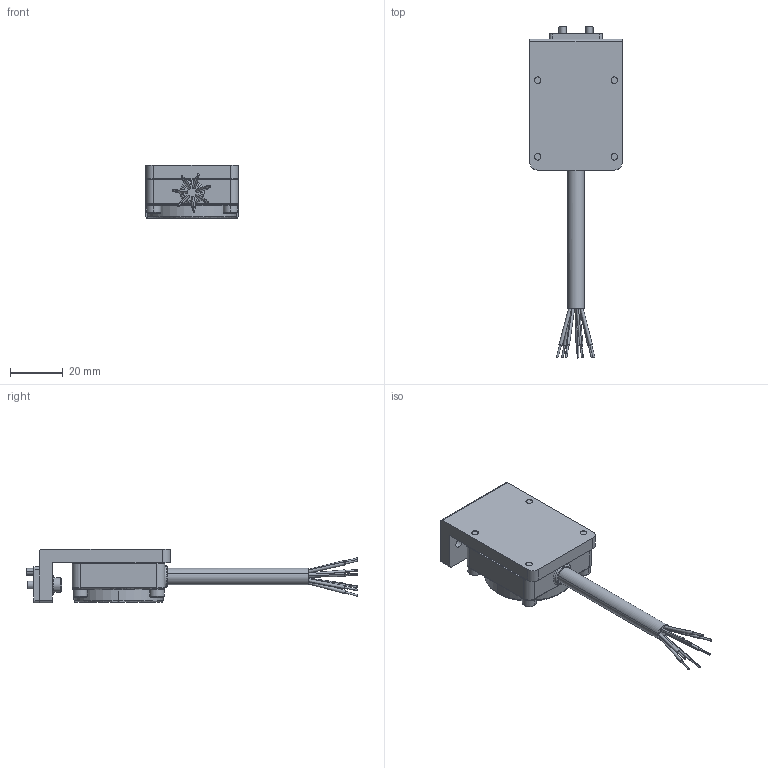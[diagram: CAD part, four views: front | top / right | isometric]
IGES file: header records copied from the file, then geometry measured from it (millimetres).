
Start section: 3D InterOp IGES (v. 2022 1.0.0), Spatial Corp. Copyright (c) 1999-2020.
Global section: file name: KHB-1RS-NN4,NP4_ver1.igs; native system: Spatial Corp.; preprocessor: 3D InterOp GENERIC/IGES 3.0; author: Noname; organization: Noname; date: 20260424.082242; units: millimetre
Bounding box: 35 x 125.57 x 20.2 mm (x, y, z)
Surface area: 13104.9 mm2 (no closed solid volume)
Topology: 0 solids, 0 shells, 363 faces, 1706 edges, 1702 vertices
Faces by surface type: revolution 222, extrusion 128, bspline 13
